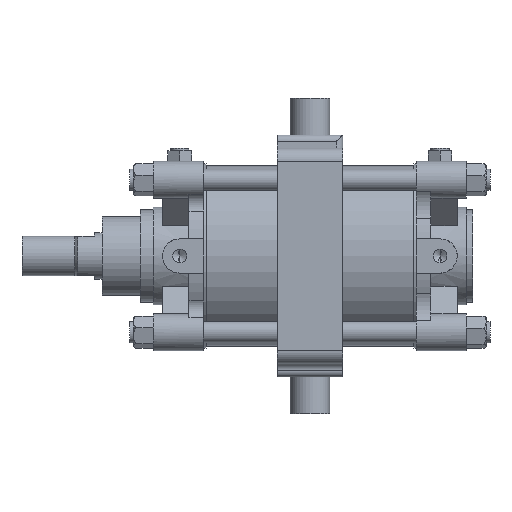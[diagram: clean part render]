
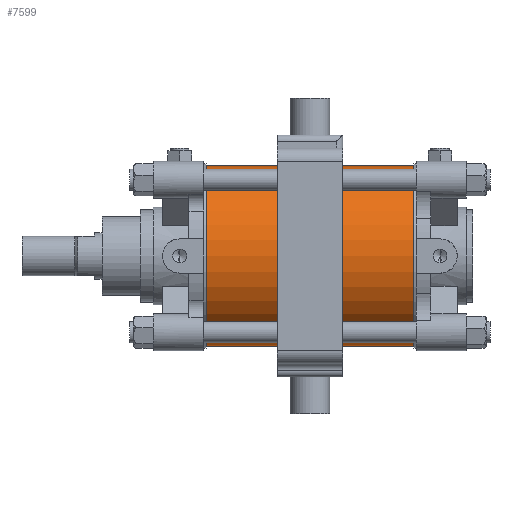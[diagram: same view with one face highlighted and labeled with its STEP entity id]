
A CAD part, front view. The second image highlights one B-rep face of the part: STEP entity #7599.
In plain terms, the highlighted cylindrical face has radius 68.5 mm (diameter 137 mm), a partial arc.
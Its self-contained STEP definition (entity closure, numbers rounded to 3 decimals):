
#270 = AXIS2_PLACEMENT_3D ( 'NONE', #8989, #7758, #3459 ) ;
#449 = ORIENTED_EDGE ( 'NONE', *, *, #5990, .T. ) ;
#738 = CARTESIAN_POINT ( 'NONE',  ( -79., 0., 68.5 ) ) ;
#960 = CARTESIAN_POINT ( 'NONE',  ( -79., 0., -68.5 ) ) ;
#2156 = CARTESIAN_POINT ( 'NONE',  ( 79., 0., 68.5 ) ) ;
#2310 = DIRECTION ( 'NONE',  ( 1., 0., 0. ) ) ;
#2530 = AXIS2_PLACEMENT_3D ( 'NONE', #9981, #2310, #6118 ) ;
#3228 = CIRCLE ( 'NONE', #2530, 68.5 ) ;
#3398 = DIRECTION ( 'NONE',  ( 0., 0., 1. ) ) ;
#3459 = DIRECTION ( 'NONE',  ( 0., 0., -1. ) ) ;
#3733 = ORIENTED_EDGE ( 'NONE', *, *, #5078, .F. ) ;
#4433 = CARTESIAN_POINT ( 'NONE',  ( 79., 0., -68.5 ) ) ;
#4437 = CIRCLE ( 'NONE', #270, 68.5 ) ;
#4675 = LINE ( 'NONE', #2156, #10313 ) ;
#4860 = CYLINDRICAL_SURFACE ( 'NONE', #5666, 68.5 ) ;
#5052 = DIRECTION ( 'NONE',  ( -1., 0., 0. ) ) ;
#5078 = EDGE_CURVE ( 'NONE', #5127, #6158, #7823, .T. ) ;
#5127 = VERTEX_POINT ( 'NONE', #9602 ) ;
#5661 = ORIENTED_EDGE ( 'NONE', *, *, #10307, .T. ) ;
#5666 = AXIS2_PLACEMENT_3D ( 'NONE', #8232, #10866, #3398 ) ;
#5764 = VERTEX_POINT ( 'NONE', #9316 ) ;
#5990 = EDGE_CURVE ( 'NONE', #5764, #9101, #4675, .T. ) ;
#6118 = DIRECTION ( 'NONE',  ( 0., 0., -1. ) ) ;
#6158 = VERTEX_POINT ( 'NONE', #960 ) ;
#6294 = VECTOR ( 'NONE', #10636, 1000. ) ;
#7599 = ADVANCED_FACE ( 'NONE', ( #9639 ), #4860, .T. ) ;
#7756 = EDGE_CURVE ( 'NONE', #5764, #5127, #3228, .T. ) ;
#7758 = DIRECTION ( 'NONE',  ( 1., 0., 0. ) ) ;
#7823 = LINE ( 'NONE', #4433, #6294 ) ;
#8048 = EDGE_LOOP ( 'NONE', ( #3733, #10763, #449, #5661 ) ) ;
#8232 = CARTESIAN_POINT ( 'NONE',  ( 79., 0., 0. ) ) ;
#8989 = CARTESIAN_POINT ( 'NONE',  ( -79., 0., 0. ) ) ;
#9101 = VERTEX_POINT ( 'NONE', #738 ) ;
#9316 = CARTESIAN_POINT ( 'NONE',  ( 79., 0., 68.5 ) ) ;
#9602 = CARTESIAN_POINT ( 'NONE',  ( 79., 0., -68.5 ) ) ;
#9639 = FACE_OUTER_BOUND ( 'NONE', #8048, .T. ) ;
#9981 = CARTESIAN_POINT ( 'NONE',  ( 79., 0., 0. ) ) ;
#10307 = EDGE_CURVE ( 'NONE', #9101, #6158, #4437, .T. ) ;
#10313 = VECTOR ( 'NONE', #5052, 1000. ) ;
#10636 = DIRECTION ( 'NONE',  ( -1., 0., 0. ) ) ;
#10763 = ORIENTED_EDGE ( 'NONE', *, *, #7756, .F. ) ;
#10866 = DIRECTION ( 'NONE',  ( -1., 0., 0. ) ) ;
